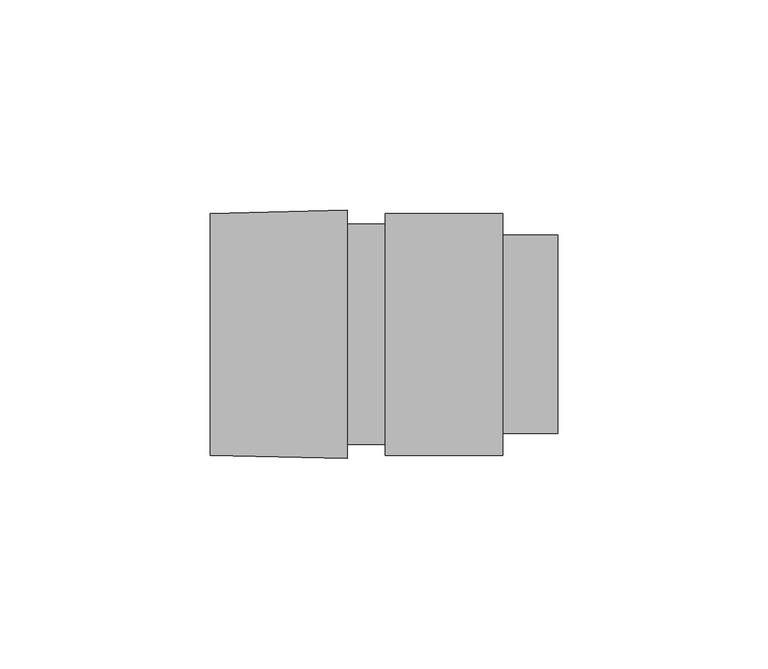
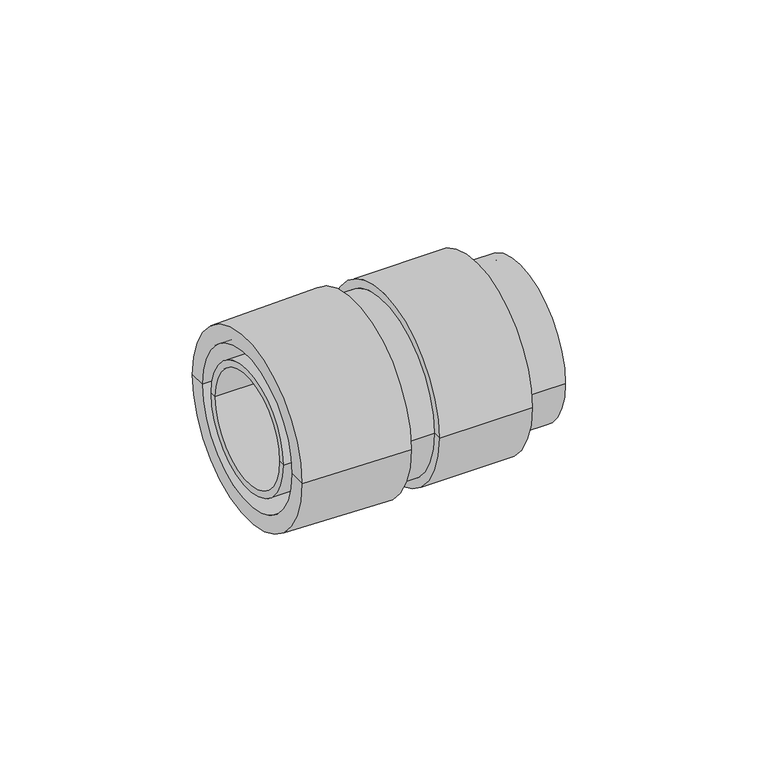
"""IFC4 building model written with IfcOpenShell, lengths in millimetres: cable carrier fitting geometry, КНС_ПереходникАрмированнаяТрубаКоробка_IP65_DKC : Коробка."""

from ifc_helpers import new_model, si_unit, frame, origin, place, context, project, spatial, polyline, circle_curve, source, transform, mapped, element, save
from ifc_brep_helpers import plane_surface, cylinder_surface, revolved_surface, advanced_brep


def cable_carrier_fitting_e6de56af(model_context):
    return source(origin(), model_context, "Body", "AdvancedBrep", [
        advanced_brep(
        [(50.0, -21.5353846, 0.0), (50.0, 21.5353846, 0.0), (0.0, 21.5353846, 0.0), (0.0, -21.5353846, 0.0), (50.0, -23.6, 0.0), (50.0, 23.6, 0.0), (37.0, -23.6, 0.0), (37.0, 23.6, 0.0), (37.0, -28.75, 0.0), (37.0, 28.75, 0.0), (9.0, -28.75, 0.0), (9.0, 28.75, 0.0), (9.0, -26.175, 0.0), (9.0, 26.175, 0.0), (0.0, -26.175, 0.0), (0.0, 26.175, 0.0)],
        [
            (0, 1, circle_curve(frame((50.0, 0.0, 0.0), z_axis=(1.0, 0.0, 0.0), x_axis=(0.0, 1.0, 0.0)), 21.5353846)),
            (1, 2),
            (2, 3, circle_curve(frame((0.0, 0.0, 0.0), z_axis=(-1.0, 0.0, 0.0), x_axis=(0.0, 1.0, 0.0)), 21.5353846)),
            (3, 0),
            (1, 0, circle_curve(frame((50.0, 0.0, 0.0), z_axis=(1.0, 0.0, 0.0), x_axis=(0.0, 1.0, 0.0)), 21.5353846)),
            (3, 2, circle_curve(frame((0.0, 0.0, 0.0), z_axis=(-1.0, 0.0, 0.0), x_axis=(0.0, 1.0, 0.0)), 21.5353846)),
            (4, 5, circle_curve(frame((50.0, 0.0, 0.0), z_axis=(1.0, 0.0, 0.0), x_axis=(0.0, 1.0, 0.0)), 23.6)),
            (5, 1),
            (0, 4),
            (5, 4, circle_curve(frame((50.0, 0.0, 0.0), z_axis=(1.0, 0.0, 0.0), x_axis=(0.0, 1.0, 0.0)), 23.6)),
            (6, 7, circle_curve(frame((37.0, 0.0, 0.0), z_axis=(1.0, 0.0, 0.0), x_axis=(0.0, 1.0, 0.0)), 23.6)),
            (7, 5),
            (4, 6),
            (7, 6, circle_curve(frame((37.0, 0.0, 0.0), z_axis=(1.0, 0.0, 0.0), x_axis=(0.0, 1.0, 0.0)), 23.6)),
            (8, 9, circle_curve(frame((37.0, 0.0, 0.0), z_axis=(1.0, 0.0, 0.0), x_axis=(0.0, 1.0, 0.0)), 28.75)),
            (9, 7),
            (6, 8),
            (9, 8, circle_curve(frame((37.0, 0.0, 0.0), z_axis=(1.0, 0.0, 0.0), x_axis=(0.0, 1.0, 0.0)), 28.75)),
            (10, 11, circle_curve(frame((9.0, 0.0, 0.0), z_axis=(1.0, 0.0, 0.0), x_axis=(0.0, 1.0, 0.0)), 28.75)),
            (11, 9),
            (8, 10),
            (11, 10, circle_curve(frame((9.0, 0.0, 0.0), z_axis=(1.0, 0.0, 0.0), x_axis=(0.0, 1.0, 0.0)), 28.75)),
            (12, 13, circle_curve(frame((9.0, 0.0, 0.0), z_axis=(1.0, 0.0, 0.0), x_axis=(0.0, 1.0, 0.0)), 26.175)),
            (13, 11),
            (10, 12),
            (13, 12, circle_curve(frame((9.0, 0.0, 0.0), z_axis=(1.0, 0.0, 0.0), x_axis=(0.0, 1.0, 0.0)), 26.175)),
            (14, 15, circle_curve(frame((0.0, 0.0, 0.0), z_axis=(1.0, 0.0, 0.0), x_axis=(0.0, 1.0, 0.0)), 26.175)),
            (15, 13),
            (12, 14),
            (15, 14, circle_curve(frame((0.0, 0.0, 0.0), z_axis=(1.0, 0.0, 0.0), x_axis=(0.0, 1.0, 0.0)), 26.175)),
            (2, 15),
            (14, 3),
        ],
        [
            revolved_surface(polyline([(0.0, 21.5353846, 0.0), (50.0, 21.5353846, 0.0)]), (1538.5, 0.0, 0.0), (-1.0, 0.0, 0.0)),
            plane_surface(frame((50.0, 0.0, 0.0), z_axis=(1.0, 0.0, 0.0), x_axis=(0.0, 1.0, 0.0))),
            cylinder_surface(frame((1538.5, 0.0, 0.0), z_axis=(-1.0, 0.0, 0.0), x_axis=(0.0, 1.0, 0.0)), 23.6),
            plane_surface(frame((37.0, 0.0, 0.0), z_axis=(1.0, 0.0, 0.0), x_axis=(0.0, 1.0, 0.0))),
            cylinder_surface(frame((1538.5, 0.0, 0.0), z_axis=(-1.0, 0.0, 0.0), x_axis=(0.0, 1.0, 0.0)), 28.75),
            plane_surface(frame((9.0, 0.0, 0.0), z_axis=(-1.0, 0.0, 0.0), x_axis=(0.0, 1.0, 0.0))),
            cylinder_surface(frame((1538.5, 0.0, 0.0), z_axis=(-1.0, 0.0, 0.0), x_axis=(0.0, 1.0, 0.0)), 26.175),
            plane_surface(frame((0.0, 0.0, 0.0), z_axis=(-1.0, 0.0, 0.0), x_axis=(0.0, 1.0, 0.0))),
        ],
        [
            (0, [[1, 2, 3, 4]]),
            (0, [[5, -4, 6, -2]]),
            (1, [[7, 8, -1, 9]]),
            (1, [[10, -9, -5, -8]]),
            (2, [[11, 12, -7, 13]]),
            (2, [[14, -13, -10, -12]]),
            (3, [[15, 16, -11, 17]]),
            (3, [[18, -17, -14, -16]]),
            (4, [[19, 20, -15, 21]]),
            (4, [[22, -21, -18, -20]]),
            (5, [[23, 24, -19, 25]]),
            (5, [[26, -25, -22, -24]]),
            (6, [[27, 28, -23, 29]]),
            (6, [[30, -29, -26, -28]]),
            (7, [[-3, 31, -27, 32]]),
            (7, [[-6, -32, -30, -31]]),
        ],
    ),
        advanced_brep(
        [(0.0, -29.5, 0.0), (0.0, 29.5, 0.0), (0.0, 23.6, 0.0), (0.0, -23.6, 0.0), (-32.5, -28.75, 0.0), (-32.5, 28.75, 0.0), (-32.5, -23.6, 0.0), (-32.5, 23.6, 0.0)],
        [
            (0, 1, circle_curve(frame((0.0, 0.0, 0.0), z_axis=(1.0, 0.0, 0.0), x_axis=(0.0, 1.0, 0.0)), 29.5)),
            (1, 2),
            (2, 3, circle_curve(frame((0.0, 0.0, 0.0), z_axis=(-1.0, 0.0, 0.0), x_axis=(0.0, 1.0, 0.0)), 23.6)),
            (3, 0),
            (1, 0, circle_curve(frame((0.0, 0.0, 0.0), z_axis=(1.0, 0.0, 0.0), x_axis=(0.0, 1.0, 0.0)), 29.5)),
            (3, 2, circle_curve(frame((0.0, 0.0, 0.0), z_axis=(-1.0, 0.0, 0.0), x_axis=(0.0, 1.0, 0.0)), 23.6)),
            (4, 5, circle_curve(frame((-32.5, 0.0, 0.0), z_axis=(1.0, 0.0, 0.0), x_axis=(0.0, 1.0, 0.0)), 28.75)),
            (5, 1),
            (0, 4),
            (5, 4, circle_curve(frame((-32.5, 0.0, 0.0), z_axis=(1.0, 0.0, 0.0), x_axis=(0.0, 1.0, 0.0)), 28.75)),
            (6, 7, circle_curve(frame((-32.5, 0.0, 0.0), z_axis=(1.0, 0.0, 0.0), x_axis=(0.0, 1.0, 0.0)), 23.6)),
            (7, 5),
            (4, 6),
            (7, 6, circle_curve(frame((-32.5, 0.0, 0.0), z_axis=(1.0, 0.0, 0.0), x_axis=(0.0, 1.0, 0.0)), 23.6)),
            (2, 7),
            (6, 3),
        ],
        [
            plane_surface(frame((0.0, 0.0, 0.0), z_axis=(1.0, 0.0, 0.0), x_axis=(0.0, 1.0, 0.0))),
            revolved_surface(polyline([(0.0, 29.5, 0.0), (-32.5, 28.75, 0.0)]), (1538.5, 0.0, 0.0), (-1.0, 0.0, 0.0)),
            plane_surface(frame((-32.5, 0.0, 0.0), z_axis=(-1.0, 0.0, 0.0), x_axis=(0.0, 1.0, 0.0))),
            revolved_surface(polyline([(-32.5, 23.6, 0.0), (0.0, 23.6, 0.0)]), (1538.5, 0.0, 0.0), (-1.0, 0.0, 0.0)),
        ],
        [
            (0, [[1, 2, 3, 4]]),
            (0, [[5, -4, 6, -2]]),
            (1, [[7, 8, -1, 9]]),
            (1, [[10, -9, -5, -8]]),
            (2, [[11, 12, -7, 13]]),
            (2, [[14, -13, -10, -12]]),
            (3, [[-3, 15, -11, 16]]),
            (3, [[-6, -16, -14, -15]]),
        ],
    ),
        advanced_brep(
        [(-32.5, -19.0, 0.0), (-32.5, 19.0, 0.0), (0.0, 19.0, 0.0), (0.0, -19.0, 0.0), (-32.5, -17.0, 0.0), (-32.5, 17.0, 0.0), (0.0, -17.0, 0.0), (0.0, 17.0, 0.0)],
        [
            (0, 1, circle_curve(frame((-32.5, 0.0, 0.0), z_axis=(1.0, 0.0, 0.0), x_axis=(0.0, 1.0, 0.0)), 19.0)),
            (1, 2),
            (2, 3, circle_curve(frame((0.0, 0.0, 0.0), z_axis=(-1.0, 0.0, 0.0), x_axis=(0.0, 1.0, 0.0)), 19.0)),
            (3, 0),
            (1, 0, circle_curve(frame((-32.5, 0.0, 0.0), z_axis=(1.0, 0.0, 0.0), x_axis=(0.0, 1.0, 0.0)), 19.0)),
            (3, 2, circle_curve(frame((0.0, 0.0, 0.0), z_axis=(-1.0, 0.0, 0.0), x_axis=(0.0, 1.0, 0.0)), 19.0)),
            (4, 5, circle_curve(frame((-32.5, 0.0, 0.0), z_axis=(1.0, 0.0, 0.0), x_axis=(0.0, 1.0, 0.0)), 17.0)),
            (5, 1),
            (0, 4),
            (5, 4, circle_curve(frame((-32.5, 0.0, 0.0), z_axis=(1.0, 0.0, 0.0), x_axis=(0.0, 1.0, 0.0)), 17.0)),
            (6, 7, circle_curve(frame((0.0, 0.0, 0.0), z_axis=(1.0, 0.0, 0.0), x_axis=(0.0, 1.0, 0.0)), 17.0)),
            (7, 5),
            (4, 6),
            (7, 6, circle_curve(frame((0.0, 0.0, 0.0), z_axis=(1.0, 0.0, 0.0), x_axis=(0.0, 1.0, 0.0)), 17.0)),
            (2, 7),
            (6, 3),
        ],
        [
            cylinder_surface(frame((1538.5, 0.0, 0.0), z_axis=(-1.0, 0.0, 0.0), x_axis=(0.0, 1.0, 0.0)), 19.0),
            plane_surface(frame((-32.5, 0.0, 0.0), z_axis=(-1.0, 0.0, 0.0), x_axis=(0.0, 1.0, 0.0))),
            revolved_surface(polyline([(-32.5, 17.0, 0.0), (0.0, 17.0, 0.0)]), (1538.5, 0.0, 0.0), (-1.0, 0.0, 0.0)),
            plane_surface(frame((0.0, 0.0, 0.0), z_axis=(1.0, 0.0, 0.0), x_axis=(0.0, 1.0, 0.0))),
        ],
        [
            (0, [[1, 2, 3, 4]]),
            (0, [[5, -4, 6, -2]]),
            (1, [[7, 8, -1, 9]]),
            (1, [[10, -9, -5, -8]]),
            (2, [[11, 12, -7, 13]]),
            (2, [[14, -13, -10, -12]]),
            (3, [[-3, 15, -11, 16]]),
            (3, [[-6, -16, -14, -15]]),
        ],
    ),
    ])


if __name__ == "__main__":
    model = new_model("IFC4")
    model_context = context("Model", 3, world=origin())
    ifc_project = project(units=[si_unit("LENGTHUNIT", "METRE", prefix="MILLI")], contexts=[model_context])
    site = spatial("IfcSite", under=ifc_project)
    building = spatial("IfcBuilding", under=site)
    placement = place(None, origin())
    cable_carrier_fitting_shape = cable_carrier_fitting_e6de56af(model_context)
    element("IfcCableCarrierFitting", 1, ObjectType="КНС_ПереходникАрмированнаяТрубаКоробка_IP65_DKC : Коробка", at=placement, inside=building, context=model_context, shape_type="MappedRepresentation", body=[
        mapped(cable_carrier_fitting_shape, transform((0.0, 0.0, 0.0), x_axis=(1.0, 0.0, 0.0), y_axis=(0.0, 1.0, 0.0), z_axis=(0.0, 0.0, 1.0))),
    ])
    save(model, "model.ifc")
